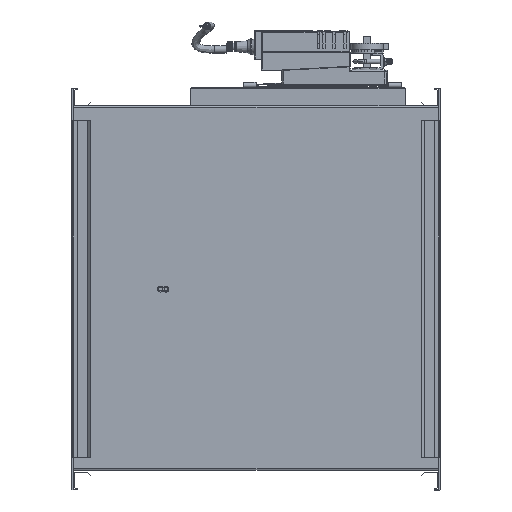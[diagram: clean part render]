
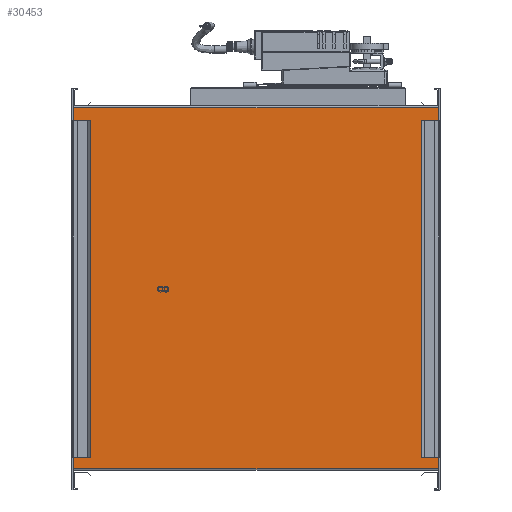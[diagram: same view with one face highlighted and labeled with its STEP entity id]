
A CAD part, front view. The second image highlights one B-rep face of the part: STEP entity #30453.
In plain terms, the highlighted planar face has unit normal (0, -1, 0).
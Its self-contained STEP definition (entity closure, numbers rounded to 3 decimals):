
#2656 = VECTOR ( 'NONE', #72089, 1000. ) ;
#3180 = EDGE_CURVE ( 'NONE', #9512, #44451, #26547, .T. ) ;
#3487 = LINE ( 'NONE', #90207, #20983 ) ;
#6069 = DIRECTION ( 'NONE',  ( 1., 0., 0. ) ) ;
#9512 = VERTEX_POINT ( 'NONE', #50594 ) ;
#10090 = CARTESIAN_POINT ( 'NONE',  ( -244.423, -35.848, 902. ) ) ;
#13458 = DIRECTION ( 'NONE',  ( 0., 0., -1. ) ) ;
#17540 = DIRECTION ( 'NONE',  ( 0., 0., -1. ) ) ;
#19612 = ORIENTED_EDGE ( 'NONE', *, *, #53558, .T. ) ;
#20438 = CARTESIAN_POINT ( 'NONE',  ( -244.423, -35.848, 902. ) ) ;
#20983 = VECTOR ( 'NONE', #89292, 1000. ) ;
#26547 = LINE ( 'NONE', #20438, #77393 ) ;
#30254 = EDGE_CURVE ( 'NONE', #59939, #58368, #50677, .T. ) ;
#30453 = ADVANCED_FACE ( 'NONE', ( #73498 ), #59058, .T. ) ;
#42455 = VECTOR ( 'NONE', #6069, 1000. ) ;
#43178 = EDGE_CURVE ( 'NONE', #9512, #59939, #52766, .T. ) ;
#44451 = VERTEX_POINT ( 'NONE', #46330 ) ;
#46330 = CARTESIAN_POINT ( 'NONE',  ( -244.423, -35.848, 902. ) ) ;
#47583 = CARTESIAN_POINT ( 'NONE',  ( -244.423, -35.848, 1298. ) ) ;
#47690 = ORIENTED_EDGE ( 'NONE', *, *, #3180, .T. ) ;
#49306 = ORIENTED_EDGE ( 'NONE', *, *, #30254, .F. ) ;
#50201 = CARTESIAN_POINT ( 'NONE',  ( 155.577, -35.848, 902. ) ) ;
#50594 = CARTESIAN_POINT ( 'NONE',  ( -244.423, -35.848, 1298. ) ) ;
#50677 = LINE ( 'NONE', #50201, #2656 ) ;
#52766 = LINE ( 'NONE', #47583, #42455 ) ;
#53558 = EDGE_CURVE ( 'NONE', #44451, #58368, #3487, .T. ) ;
#56514 = CARTESIAN_POINT ( 'NONE',  ( 155.577, -35.848, 1298. ) ) ;
#58368 = VERTEX_POINT ( 'NONE', #66818 ) ;
#59058 = PLANE ( 'NONE',  #78607 ) ;
#59939 = VERTEX_POINT ( 'NONE', #56514 ) ;
#62869 = EDGE_LOOP ( 'NONE', ( #49306, #71003, #47690, #19612 ) ) ;
#66818 = CARTESIAN_POINT ( 'NONE',  ( 155.577, -35.848, 902. ) ) ;
#71003 = ORIENTED_EDGE ( 'NONE', *, *, #43178, .F. ) ;
#72089 = DIRECTION ( 'NONE',  ( 0., 0., -1. ) ) ;
#73498 = FACE_OUTER_BOUND ( 'NONE', #62869, .T. ) ;
#77393 = VECTOR ( 'NONE', #13458, 1000. ) ;
#78607 = AXIS2_PLACEMENT_3D ( 'NONE', #10090, #87967, #17540 ) ;
#87967 = DIRECTION ( 'NONE',  ( 0., -1., 0. ) ) ;
#89292 = DIRECTION ( 'NONE',  ( 1., 0., 0. ) ) ;
#90207 = CARTESIAN_POINT ( 'NONE',  ( -244.423, -35.848, 902. ) ) ;
